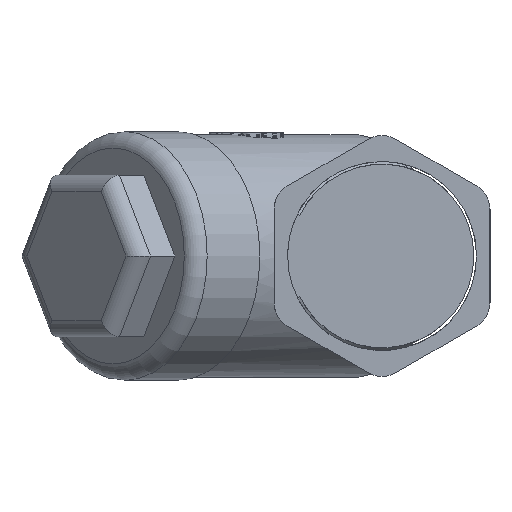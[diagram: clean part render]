
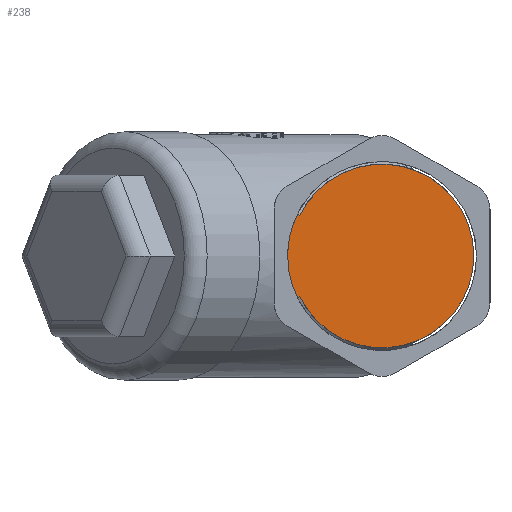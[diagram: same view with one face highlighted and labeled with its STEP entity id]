
A CAD part, left-side view. The second image highlights one B-rep face of the part: STEP entity #238.
In plain terms, the highlighted planar face has unit normal (-1, 0, 0).
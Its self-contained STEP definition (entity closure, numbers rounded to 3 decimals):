
#238=ADVANCED_FACE('',(#8151),#8153,.F.);
#8151=FACE_BOUND('',#8152,.T.);
#8152=EDGE_LOOP('',(#15088,#15089,#15090,#15091,#15092));
#8153=PLANE('',#8154);
#8154=AXIS2_PLACEMENT_3D('',#8155,#8156,#8157);
#8155=CARTESIAN_POINT('',(618.038,-80.264,0.));
#8156=DIRECTION('',(1.,0.,0.));
#8157=DIRECTION('',(0.,0.,-1.));
#15088=ORIENTED_EDGE('',*,*,#19366,.F.);
#15089=ORIENTED_EDGE('',*,*,#20218,.T.);
#15090=ORIENTED_EDGE('',*,*,#19360,.F.);
#15091=ORIENTED_EDGE('',*,*,#20219,.T.);
#15092=ORIENTED_EDGE('',*,*,#20220,.T.);
#19360=EDGE_CURVE('',#21938,#21940,#21941,.T.);
#19366=EDGE_CURVE('',#21950,#21952,#21953,.T.);
#20218=EDGE_CURVE('',#21950,#21940,#23645,.T.);
#20219=EDGE_CURVE('',#21938,#23646,#23647,.T.);
#20220=EDGE_CURVE('',#23646,#21952,#23648,.T.);
#21938=VERTEX_POINT('',#26239);
#21940=VERTEX_POINT('',#26300);
#21941=B_SPLINE_CURVE_WITH_KNOTS('',3,
(#26301,#26302,#26303,#26304,#26305,#26306),
.UNSPECIFIED.,.F.,.F.,
(4,2,4),
(0.,0.5,1.),
.UNSPECIFIED.);
#21950=VERTEX_POINT('',#26433);
#21952=VERTEX_POINT('',#26438);
#21953=B_SPLINE_CURVE_WITH_KNOTS('',3,
(#26439,#26440,#26441,#26442,#26443,#26444),
.UNSPECIFIED.,.F.,.F.,
(4,2,4),
(0.,0.5,1.),
.UNSPECIFIED.);
#23645=CIRCLE('',#30834,17.5);
#23646=VERTEX_POINT('',#30838);
#23647=CIRCLE('',#30839,17.);
#23648=CIRCLE('',#30843,17.);
#26239=CARTESIAN_POINT('',(618.038,-65.015,-7.514));
#26300=CARTESIAN_POINT('',(618.038,-64.721,-8.041));
#26301=CARTESIAN_POINT('',(618.038,-65.015,-7.514));
#26302=CARTESIAN_POINT('',(618.038,-64.967,-7.602));
#26303=CARTESIAN_POINT('',(618.038,-64.919,-7.69));
#26304=CARTESIAN_POINT('',(618.038,-64.821,-7.866));
#26305=CARTESIAN_POINT('',(618.038,-64.771,-7.953));
#26306=CARTESIAN_POINT('',(618.038,-64.721,-8.041));
#26433=CARTESIAN_POINT('',(618.038,-64.721,8.041));
#26438=CARTESIAN_POINT('',(618.038,-65.015,7.514));
#26439=CARTESIAN_POINT('',(618.038,-64.721,8.041));
#26440=CARTESIAN_POINT('',(618.038,-64.771,7.953));
#26441=CARTESIAN_POINT('',(618.038,-64.821,7.866));
#26442=CARTESIAN_POINT('',(618.038,-64.919,7.69));
#26443=CARTESIAN_POINT('',(618.038,-64.967,7.602));
#26444=CARTESIAN_POINT('',(618.038,-65.015,7.514));
#30834=AXIS2_PLACEMENT_3D('',#30835,#30836,#30837);
#30835=CARTESIAN_POINT('',(618.038,-80.264,0.));
#30836=DIRECTION('',(-1.,0.,0.));
#30837=DIRECTION('',(0.,0.888,0.459));
#30838=CARTESIAN_POINT('',(618.038,-93.455,10.725));
#30839=AXIS2_PLACEMENT_3D('',#30840,#30841,#30842);
#30840=CARTESIAN_POINT('',(618.038,-80.264,0.));
#30841=DIRECTION('',(-1.,0.,0.));
#30842=DIRECTION('',(0.,0.897,-0.442));
#30843=AXIS2_PLACEMENT_3D('',#30844,#30845,#30846);
#30844=CARTESIAN_POINT('',(618.038,-80.264,0.));
#30845=DIRECTION('',(-1.,0.,0.));
#30846=DIRECTION('',(0.,-0.776,0.631));
